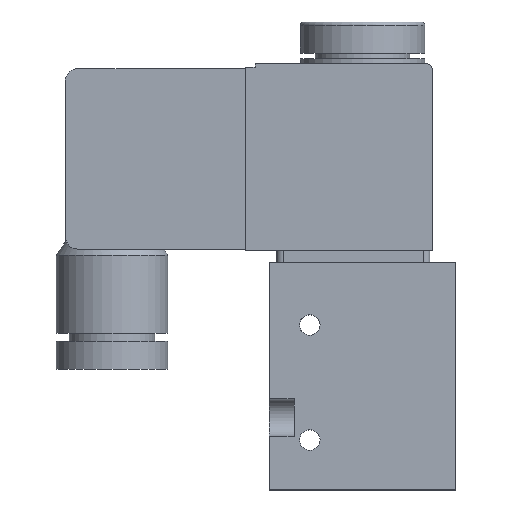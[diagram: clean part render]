
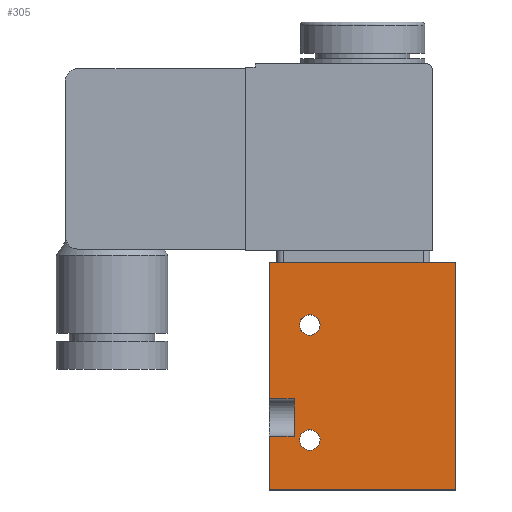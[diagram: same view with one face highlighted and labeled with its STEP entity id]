
A CAD part, top view. The second image highlights one B-rep face of the part: STEP entity #305.
In plain terms, the highlighted planar face has unit normal (0, 0, 1).
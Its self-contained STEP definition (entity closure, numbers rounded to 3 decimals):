
#305 = ADVANCED_FACE( '', ( #668, #669, #670 ), #671, .T. );
#668 = FACE_BOUND( '', #1063, .T. );
#669 = FACE_BOUND( '', #1064, .T. );
#670 = FACE_OUTER_BOUND( '', #1065, .T. );
#671 = PLANE( '', #1066 );
#1063 = EDGE_LOOP( '', ( #1869 ) );
#1064 = EDGE_LOOP( '', ( #1870 ) );
#1065 = EDGE_LOOP( '', ( #1871, #1872, #1873, #1874, #1875, #1876, #1877, #1878 ) );
#1066 = AXIS2_PLACEMENT_3D( '', #1879, #1880, #1881 );
#1869 = ORIENTED_EDGE( '', *, *, #2207, .F. );
#1870 = ORIENTED_EDGE( '', *, *, #2316, .F. );
#1871 = ORIENTED_EDGE( '', *, *, #2147, .T. );
#1872 = ORIENTED_EDGE( '', *, *, #2225, .F. );
#1873 = ORIENTED_EDGE( '', *, *, #2281, .T. );
#1874 = ORIENTED_EDGE( '', *, *, #2387, .T. );
#1875 = ORIENTED_EDGE( '', *, *, #2154, .T. );
#1876 = ORIENTED_EDGE( '', *, *, #2356, .T. );
#1877 = ORIENTED_EDGE( '', *, *, #2370, .T. );
#1878 = ORIENTED_EDGE( '', *, *, #2383, .T. );
#1879 = CARTESIAN_POINT( '', ( 0., 0., 11. ) );
#1880 = DIRECTION( '', ( 0., 0., 1. ) );
#1881 = DIRECTION( '', ( 1., 0., 0. ) );
#2147 = EDGE_CURVE( '', #2550, #2548, #2551, .T. );
#2154 = EDGE_CURVE( '', #2563, #2561, #2564, .T. );
#2207 = EDGE_CURVE( '', #2652, #2652, #2653, .T. );
#2225 = EDGE_CURVE( '', #2678, #2548, #2680, .T. );
#2281 = EDGE_CURVE( '', #2678, #2760, #2762, .T. );
#2316 = EDGE_CURVE( '', #2811, #2811, #2812, .T. );
#2356 = EDGE_CURVE( '', #2561, #2862, #2864, .T. );
#2370 = EDGE_CURVE( '', #2862, #2882, #2884, .T. );
#2383 = EDGE_CURVE( '', #2882, #2550, #2899, .T. );
#2387 = EDGE_CURVE( '', #2760, #2563, #2903, .T. );
#2548 = VERTEX_POINT( '', #3132 );
#2550 = VERTEX_POINT( '', #3135 );
#2551 = LINE( '', #3136, #3137 );
#2561 = VERTEX_POINT( '', #3151 );
#2563 = VERTEX_POINT( '', #3154 );
#2564 = LINE( '', #3155, #3156 );
#2652 = VERTEX_POINT( '', #3264 );
#2653 = CIRCLE( '', #3265, 1.65 );
#2678 = VERTEX_POINT( '', #3390 );
#2680 = LINE( '', #3393, #3394 );
#2760 = VERTEX_POINT( '', #3495 );
#2762 = LINE( '', #3498, #3499 );
#2811 = VERTEX_POINT( '', #3561 );
#2812 = CIRCLE( '', #3562, 1.65 );
#2862 = VERTEX_POINT( '', #3625 );
#2864 = LINE( '', #3628, #3629 );
#2882 = VERTEX_POINT( '', #3649 );
#2884 = LINE( '', #3652, #3653 );
#2899 = LINE( '', #3672, #3673 );
#2903 = LINE( '', #3677, #3678 );
#3132 = CARTESIAN_POINT( '', ( -15., 14.6, 11. ) );
#3135 = CARTESIAN_POINT( '', ( -15., 36.5, 11. ) );
#3136 = CARTESIAN_POINT( '', ( -15., 36.5, 11. ) );
#3137 = VECTOR( '', #3815, 1000. );
#3151 = CARTESIAN_POINT( '', ( -15., 0., 11. ) );
#3154 = CARTESIAN_POINT( '', ( -15., 8.6, 11. ) );
#3155 = CARTESIAN_POINT( '', ( -15., 36.5, 11. ) );
#3156 = VECTOR( '', #3824, 1000. );
#3264 = CARTESIAN_POINT( '', ( -6.85, 26.5, 11. ) );
#3265 = AXIS2_PLACEMENT_3D( '', #3917, #3918, #3919 );
#3390 = CARTESIAN_POINT( '', ( -11., 14.6, 11. ) );
#3393 = CARTESIAN_POINT( '', ( -11., 14.6, 11. ) );
#3394 = VECTOR( '', #3937, 1000. );
#3495 = CARTESIAN_POINT( '', ( -11., 8.6, 11. ) );
#3498 = CARTESIAN_POINT( '', ( -11., 14.6, 11. ) );
#3499 = VECTOR( '', #4008, 1000. );
#3561 = CARTESIAN_POINT( '', ( -6.85, 8., 11. ) );
#3562 = AXIS2_PLACEMENT_3D( '', #4046, #4047, #4048 );
#3625 = CARTESIAN_POINT( '', ( 15., 0., 11. ) );
#3628 = CARTESIAN_POINT( '', ( -15., 0., 11. ) );
#3629 = VECTOR( '', #4090, 1000. );
#3649 = CARTESIAN_POINT( '', ( 15., 36.5, 11. ) );
#3652 = CARTESIAN_POINT( '', ( 15., 0., 11. ) );
#3653 = VECTOR( '', #4115, 1000. );
#3672 = CARTESIAN_POINT( '', ( 15., 36.5, 11. ) );
#3673 = VECTOR( '', #4126, 1000. );
#3677 = CARTESIAN_POINT( '', ( -11., 8.6, 11. ) );
#3678 = VECTOR( '', #4130, 1000. );
#3815 = DIRECTION( '', ( 0., -1., 0. ) );
#3824 = DIRECTION( '', ( 0., -1., 0. ) );
#3917 = CARTESIAN_POINT( '', ( -8.5, 26.5, 11. ) );
#3918 = DIRECTION( '', ( 0., 0., 1. ) );
#3919 = DIRECTION( '', ( 1., 0., 0. ) );
#3937 = DIRECTION( '', ( -1., 0., 0. ) );
#4008 = DIRECTION( '', ( 0., -1., 0. ) );
#4046 = CARTESIAN_POINT( '', ( -8.5, 8., 11. ) );
#4047 = DIRECTION( '', ( 0., 0., 1. ) );
#4048 = DIRECTION( '', ( 1., 0., 0. ) );
#4090 = DIRECTION( '', ( 1., 0., 0. ) );
#4115 = DIRECTION( '', ( 0., 1., 0. ) );
#4126 = DIRECTION( '', ( -1., 0., 0. ) );
#4130 = DIRECTION( '', ( -1., 0., 0. ) );
